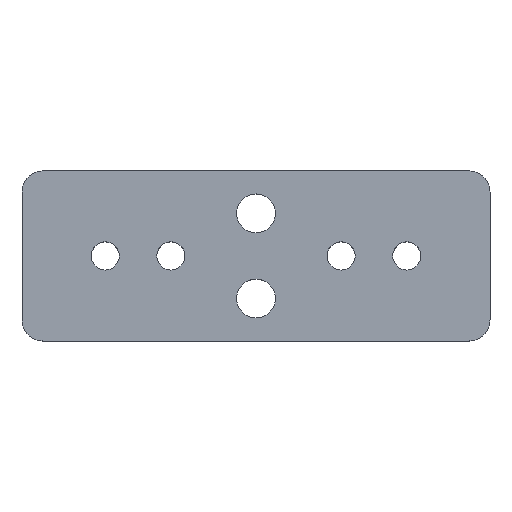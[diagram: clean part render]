
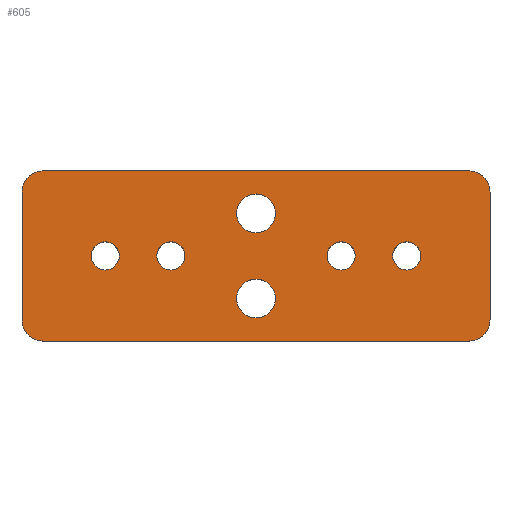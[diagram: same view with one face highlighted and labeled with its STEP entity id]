
A CAD part, top view. The second image highlights one B-rep face of the part: STEP entity #605.
In plain terms, the highlighted planar face has unit normal (0, 0, 1).
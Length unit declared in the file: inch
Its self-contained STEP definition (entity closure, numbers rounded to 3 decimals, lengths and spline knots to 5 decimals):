
#9 = CIRCLE ( 'NONE', #207, 0.08268 ) ;
#10 = CARTESIAN_POINT ( 'NONE',  ( -0.886, 0., 0.1875 ) ) ;
#11 = EDGE_CURVE ( 'NONE', #596, #596, #547, .T. ) ;
#22 = EDGE_CURVE ( 'NONE', #683, #225, #135, .T. ) ;
#31 = VERTEX_POINT ( 'NONE', #409 ) ;
#32 = DIRECTION ( 'NONE',  ( 0., 0., 1. ) ) ;
#40 = CARTESIAN_POINT ( 'NONE',  ( -0.114, -0.25, 0.1875 ) ) ;
#42 = DIRECTION ( 'NONE',  ( 1., 0., 0. ) ) ;
#43 = CARTESIAN_POINT ( 'NONE',  ( 1.375, 0.375, 0.1875 ) ) ;
#46 = DIRECTION ( 'NONE',  ( 0., 0., -1. ) ) ;
#47 = DIRECTION ( 'NONE',  ( 0., 0., -1. ) ) ;
#59 = CIRCLE ( 'NONE', #727, 0.125 ) ;
#61 = DIRECTION ( 'NONE',  ( 1., 0., 0. ) ) ;
#68 = CARTESIAN_POINT ( 'NONE',  ( 1.25, 0.375, 0.1875 ) ) ;
#69 = EDGE_CURVE ( 'NONE', #186, #322, #273, .T. ) ;
#71 = ORIENTED_EDGE ( 'NONE', *, *, #816, .T. ) ;
#73 = FACE_BOUND ( 'NONE', #314, .T. ) ;
#76 = AXIS2_PLACEMENT_3D ( 'NONE', #528, #32, #764 ) ;
#80 = ORIENTED_EDGE ( 'NONE', *, *, #227, .T. ) ;
#82 = FACE_BOUND ( 'NONE', #245, .T. ) ;
#97 = AXIS2_PLACEMENT_3D ( 'NONE', #10, #524, #129 ) ;
#100 = CARTESIAN_POINT ( 'NONE',  ( 1.25, -0.5, 0.1875 ) ) ;
#111 = EDGE_LOOP ( 'NONE', ( #708 ) ) ;
#116 = ORIENTED_EDGE ( 'NONE', *, *, #211, .T. ) ;
#117 = LINE ( 'NONE', #179, #280 ) ;
#129 = DIRECTION ( 'NONE',  ( -1., 0., 0. ) ) ;
#135 = LINE ( 'NONE', #202, #652 ) ;
#139 = DIRECTION ( 'NONE',  ( 0., 1., 0. ) ) ;
#153 = VERTEX_POINT ( 'NONE', #659 ) ;
#158 = DIRECTION ( 'NONE',  ( 1., 0., 0. ) ) ;
#163 = DIRECTION ( 'NONE',  ( 0., 0., -1. ) ) ;
#170 = CARTESIAN_POINT ( 'NONE',  ( 0.5, 0., 0.1875 ) ) ;
#179 = CARTESIAN_POINT ( 'NONE',  ( 1.375, 0.5, 0.1875 ) ) ;
#186 = VERTEX_POINT ( 'NONE', #555 ) ;
#189 = CARTESIAN_POINT ( 'NONE',  ( -1.25, 0.5, 0.1875 ) ) ;
#192 = AXIS2_PLACEMENT_3D ( 'NONE', #514, #700, #705 ) ;
#195 = AXIS2_PLACEMENT_3D ( 'NONE', #626, #387, #61 ) ;
#202 = CARTESIAN_POINT ( 'NONE',  ( 1.375, -0.5, 0.1875 ) ) ;
#203 = DIRECTION ( 'NONE',  ( 1., 0., 0. ) ) ;
#207 = AXIS2_PLACEMENT_3D ( 'NONE', #170, #483, #601 ) ;
#208 = ORIENTED_EDGE ( 'NONE', *, *, #22, .T. ) ;
#211 = EDGE_CURVE ( 'NONE', #539, #539, #679, .T. ) ;
#213 = PLANE ( 'NONE',  #76 ) ;
#219 = CARTESIAN_POINT ( 'NONE',  ( -0.58268, 0., 0.1875 ) ) ;
#225 = VERTEX_POINT ( 'NONE', #43 ) ;
#226 = VERTEX_POINT ( 'NONE', #671 ) ;
#227 = EDGE_CURVE ( 'NONE', #815, #506, #117, .T. ) ;
#241 = VECTOR ( 'NONE', #533, 39.37008 ) ;
#243 = CIRCLE ( 'NONE', #710, 0.08268 ) ;
#245 = EDGE_LOOP ( 'NONE', ( #116 ) ) ;
#247 = CARTESIAN_POINT ( 'NONE',  ( -0.5, 0., 0.1875 ) ) ;
#272 = AXIS2_PLACEMENT_3D ( 'NONE', #610, #286, #355 ) ;
#273 = LINE ( 'NONE', #477, #241 ) ;
#280 = VECTOR ( 'NONE', #750, 39.37008 ) ;
#281 = CIRCLE ( 'NONE', #352, 0.08268 ) ;
#286 = DIRECTION ( 'NONE',  ( 0., 0., 1. ) ) ;
#297 = ORIENTED_EDGE ( 'NONE', *, *, #462, .T. ) ;
#314 = EDGE_LOOP ( 'NONE', ( #637 ) ) ;
#315 = DIRECTION ( 'NONE',  ( 0., 0., 1. ) ) ;
#321 = DIRECTION ( 'NONE',  ( 0., 0., 1. ) ) ;
#322 = VERTEX_POINT ( 'NONE', #517 ) ;
#325 = AXIS2_PLACEMENT_3D ( 'NONE', #677, #47, #368 ) ;
#328 = ORIENTED_EDGE ( 'NONE', *, *, #458, .T. ) ;
#339 = CIRCLE ( 'NONE', #97, 0.08268 ) ;
#352 = AXIS2_PLACEMENT_3D ( 'NONE', #598, #163, #780 ) ;
#353 = CARTESIAN_POINT ( 'NONE',  ( 1.25, 0.5, 0.1875 ) ) ;
#355 = DIRECTION ( 'NONE',  ( 1., 0., 0. ) ) ;
#356 = ORIENTED_EDGE ( 'NONE', *, *, #789, .T. ) ;
#368 = DIRECTION ( 'NONE',  ( -1., 0., 0. ) ) ;
#369 = ORIENTED_EDGE ( 'NONE', *, *, #11, .T. ) ;
#372 = EDGE_CURVE ( 'NONE', #153, #153, #339, .T. ) ;
#387 = DIRECTION ( 'NONE',  ( 0., 0., 1. ) ) ;
#394 = CIRCLE ( 'NONE', #272, 0.125 ) ;
#401 = FACE_OUTER_BOUND ( 'NONE', #690, .T. ) ;
#409 = CARTESIAN_POINT ( 'NONE',  ( -1.25, -0.5, 0.1875 ) ) ;
#436 = EDGE_LOOP ( 'NONE', ( #328 ) ) ;
#441 = CIRCLE ( 'NONE', #782, 0.125 ) ;
#450 = FACE_BOUND ( 'NONE', #712, .T. ) ;
#452 = FACE_BOUND ( 'NONE', #111, .T. ) ;
#458 = EDGE_CURVE ( 'NONE', #475, #475, #243, .T. ) ;
#462 = EDGE_CURVE ( 'NONE', #506, #186, #59, .T. ) ;
#475 = VERTEX_POINT ( 'NONE', #219 ) ;
#477 = CARTESIAN_POINT ( 'NONE',  ( -1.375, 0.5, 0.1875 ) ) ;
#483 = DIRECTION ( 'NONE',  ( 0., 0., -1. ) ) ;
#489 = ORIENTED_EDGE ( 'NONE', *, *, #527, .T. ) ;
#506 = VERTEX_POINT ( 'NONE', #189 ) ;
#514 = CARTESIAN_POINT ( 'NONE',  ( 0., -0.25, 0.1875 ) ) ;
#517 = CARTESIAN_POINT ( 'NONE',  ( -1.375, -0.375, 0.1875 ) ) ;
#523 = CARTESIAN_POINT ( 'NONE',  ( 1.375, -0.375, 0.1875 ) ) ;
#524 = DIRECTION ( 'NONE',  ( 0., 0., -1. ) ) ;
#527 = EDGE_CURVE ( 'NONE', #564, #683, #696, .T. ) ;
#528 = CARTESIAN_POINT ( 'NONE',  ( 0., 0., 0.1875 ) ) ;
#533 = DIRECTION ( 'NONE',  ( 0., -1., 0. ) ) ;
#539 = VERTEX_POINT ( 'NONE', #785 ) ;
#546 = CARTESIAN_POINT ( 'NONE',  ( 0.41732, 0., 0.1875 ) ) ;
#547 = CIRCLE ( 'NONE', #192, 0.114 ) ;
#555 = CARTESIAN_POINT ( 'NONE',  ( -1.375, 0.375, 0.1875 ) ) ;
#556 = ORIENTED_EDGE ( 'NONE', *, *, #693, .T. ) ;
#564 = VERTEX_POINT ( 'NONE', #100 ) ;
#572 = EDGE_CURVE ( 'NONE', #225, #815, #441, .T. ) ;
#596 = VERTEX_POINT ( 'NONE', #40 ) ;
#598 = CARTESIAN_POINT ( 'NONE',  ( 0.886, 0., 0.1875 ) ) ;
#601 = DIRECTION ( 'NONE',  ( -1., 0., 0. ) ) ;
#605 = ADVANCED_FACE ( 'NONE', ( #450, #82, #73, #713, #706, #452, #401 ), #213, .T. ) ;
#610 = CARTESIAN_POINT ( 'NONE',  ( -1.25, -0.375, 0.1875 ) ) ;
#618 = ORIENTED_EDGE ( 'NONE', *, *, #572, .T. ) ;
#619 = ORIENTED_EDGE ( 'NONE', *, *, #69, .T. ) ;
#626 = CARTESIAN_POINT ( 'NONE',  ( 1.25, -0.375, 0.1875 ) ) ;
#637 = ORIENTED_EDGE ( 'NONE', *, *, #767, .T. ) ;
#642 = VECTOR ( 'NONE', #203, 39.37008 ) ;
#652 = VECTOR ( 'NONE', #139, 39.37008 ) ;
#659 = CARTESIAN_POINT ( 'NONE',  ( -0.96868, 0., 0.1875 ) ) ;
#671 = CARTESIAN_POINT ( 'NONE',  ( 0.80332, 0., 0.1875 ) ) ;
#677 = CARTESIAN_POINT ( 'NONE',  ( 0., 0.25, 0.1875 ) ) ;
#679 = CIRCLE ( 'NONE', #325, 0.114 ) ;
#681 = EDGE_LOOP ( 'NONE', ( #356 ) ) ;
#683 = VERTEX_POINT ( 'NONE', #523 ) ;
#690 = EDGE_LOOP ( 'NONE', ( #208, #618, #80, #297, #619, #71, #556, #489 ) ) ;
#693 = EDGE_CURVE ( 'NONE', #31, #564, #768, .T. ) ;
#696 = CIRCLE ( 'NONE', #195, 0.125 ) ;
#700 = DIRECTION ( 'NONE',  ( 0., 0., -1. ) ) ;
#705 = DIRECTION ( 'NONE',  ( -1., 0., 0. ) ) ;
#706 = FACE_BOUND ( 'NONE', #681, .T. ) ;
#708 = ORIENTED_EDGE ( 'NONE', *, *, #372, .T. ) ;
#709 = CARTESIAN_POINT ( 'NONE',  ( -1.375, -0.5, 0.1875 ) ) ;
#710 = AXIS2_PLACEMENT_3D ( 'NONE', #247, #46, #730 ) ;
#712 = EDGE_LOOP ( 'NONE', ( #369 ) ) ;
#713 = FACE_BOUND ( 'NONE', #436, .T. ) ;
#727 = AXIS2_PLACEMENT_3D ( 'NONE', #814, #315, #158 ) ;
#730 = DIRECTION ( 'NONE',  ( -1., 0., 0. ) ) ;
#750 = DIRECTION ( 'NONE',  ( -1., 0., 0. ) ) ;
#764 = DIRECTION ( 'NONE',  ( 1., 0., 0. ) ) ;
#767 = EDGE_CURVE ( 'NONE', #783, #783, #9, .T. ) ;
#768 = LINE ( 'NONE', #709, #642 ) ;
#780 = DIRECTION ( 'NONE',  ( -1., 0., 0. ) ) ;
#782 = AXIS2_PLACEMENT_3D ( 'NONE', #68, #321, #42 ) ;
#783 = VERTEX_POINT ( 'NONE', #546 ) ;
#785 = CARTESIAN_POINT ( 'NONE',  ( -0.114, 0.25, 0.1875 ) ) ;
#789 = EDGE_CURVE ( 'NONE', #226, #226, #281, .T. ) ;
#814 = CARTESIAN_POINT ( 'NONE',  ( -1.25, 0.375, 0.1875 ) ) ;
#815 = VERTEX_POINT ( 'NONE', #353 ) ;
#816 = EDGE_CURVE ( 'NONE', #322, #31, #394, .T. ) ;
